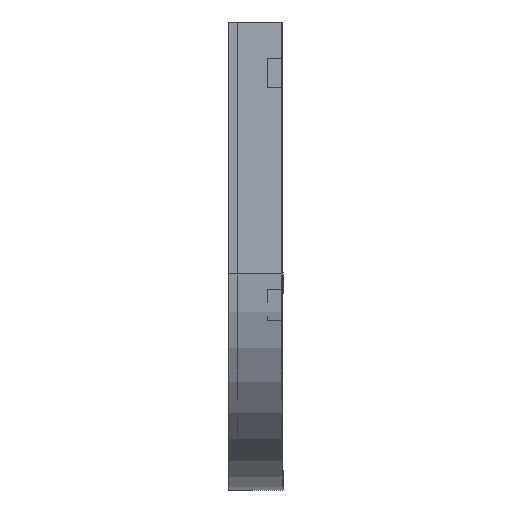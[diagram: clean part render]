
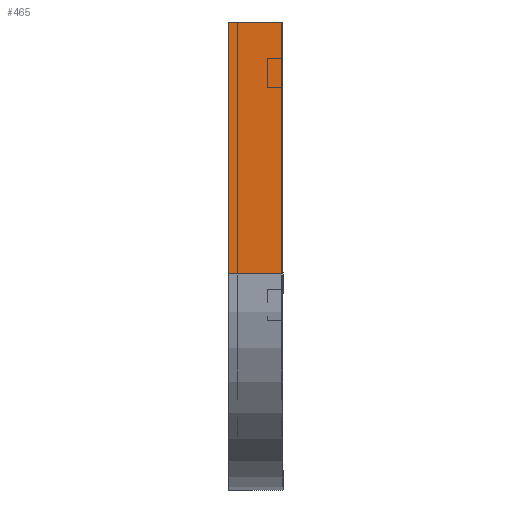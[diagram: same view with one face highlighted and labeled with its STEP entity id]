
A CAD part, left-side view. The second image highlights one B-rep face of the part: STEP entity #465.
In plain terms, the highlighted planar face has unit normal (-1, 0, 0).
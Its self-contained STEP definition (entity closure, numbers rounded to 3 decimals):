
#144 = DIRECTION ( 'NONE',  ( 1., 0., 0. ) ) ;
#156 = PLANE ( 'NONE',  #179 ) ;
#179 = AXIS2_PLACEMENT_3D ( 'NONE', #1710, #144, #1864 ) ;
#297 = LINE ( 'NONE', #876, #1481 ) ;
#318 = DIRECTION ( 'NONE',  ( 0., 0., -1. ) ) ;
#358 = VECTOR ( 'NONE', #739, 1000. ) ;
#405 = VERTEX_POINT ( 'NONE', #963 ) ;
#408 = ORIENTED_EDGE ( 'NONE', *, *, #703, .T. ) ;
#428 = CARTESIAN_POINT ( 'NONE',  ( 0., 0., -350. ) ) ;
#465 = ADVANCED_FACE ( 'NONE', ( #549 ), #156, .F. ) ;
#549 = FACE_OUTER_BOUND ( 'NONE', #1228, .T. ) ;
#556 = CARTESIAN_POINT ( 'NONE',  ( 0., 0., 0. ) ) ;
#578 = VERTEX_POINT ( 'NONE', #744 ) ;
#697 = ORIENTED_EDGE ( 'NONE', *, *, #1588, .F. ) ;
#703 = EDGE_CURVE ( 'NONE', #1692, #1473, #1380, .T. ) ;
#739 = DIRECTION ( 'NONE',  ( 0., -1., 0. ) ) ;
#744 = CARTESIAN_POINT ( 'NONE',  ( 0., 75., 0. ) ) ;
#836 = LINE ( 'NONE', #1169, #358 ) ;
#876 = CARTESIAN_POINT ( 'NONE',  ( 0., 75., 0. ) ) ;
#963 = CARTESIAN_POINT ( 'NONE',  ( 0., 0., 0. ) ) ;
#971 = ORIENTED_EDGE ( 'NONE', *, *, #1013, .T. ) ;
#1013 = EDGE_CURVE ( 'NONE', #578, #1692, #297, .T. ) ;
#1070 = CARTESIAN_POINT ( 'NONE',  ( 0., 0., -350. ) ) ;
#1169 = CARTESIAN_POINT ( 'NONE',  ( 0., 0., 0. ) ) ;
#1195 = VECTOR ( 'NONE', #1808, 1000. ) ;
#1205 = ORIENTED_EDGE ( 'NONE', *, *, #1335, .F. ) ;
#1228 = EDGE_LOOP ( 'NONE', ( #1205, #697, #971, #408 ) ) ;
#1335 = EDGE_CURVE ( 'NONE', #405, #1473, #1399, .T. ) ;
#1380 = LINE ( 'NONE', #1070, #1195 ) ;
#1399 = LINE ( 'NONE', #556, #1838 ) ;
#1473 = VERTEX_POINT ( 'NONE', #428 ) ;
#1481 = VECTOR ( 'NONE', #318, 1000. ) ;
#1483 = CARTESIAN_POINT ( 'NONE',  ( 0., 75., -350. ) ) ;
#1573 = DIRECTION ( 'NONE',  ( 0., 0., -1. ) ) ;
#1588 = EDGE_CURVE ( 'NONE', #578, #405, #836, .T. ) ;
#1692 = VERTEX_POINT ( 'NONE', #1483 ) ;
#1710 = CARTESIAN_POINT ( 'NONE',  ( 0., 0., 0. ) ) ;
#1808 = DIRECTION ( 'NONE',  ( 0., -1., 0. ) ) ;
#1838 = VECTOR ( 'NONE', #1573, 1000. ) ;
#1864 = DIRECTION ( 'NONE',  ( 0., 0., -1. ) ) ;
